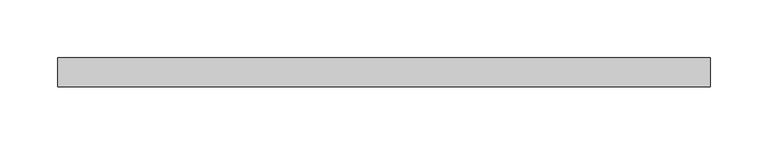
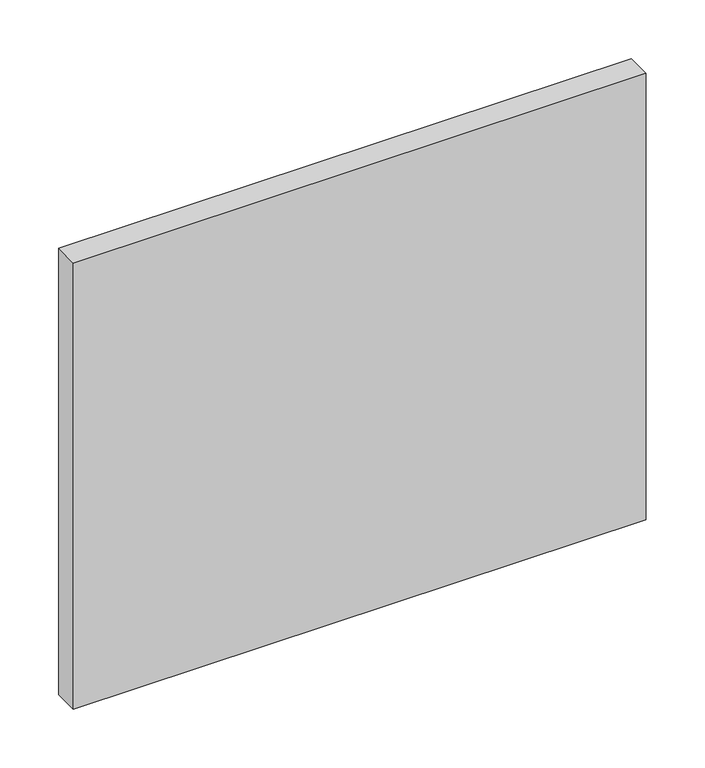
"""IFC4 building model written with IfcOpenShell, lengths in millimetres: plate geometry, Системная панель : С остеклением."""

import ifcopenshell
import ifcopenshell.guid

model = None  # the IFC model being written
_history = None  # IfcOwnerHistory: only IFC2X3 demands one
_inside = {}  # id of a spatial element -> (the spatial element, [elements in it])
_under = {}  # id of a project, library or spatial element -> (it, [spatial elements below it])
_declared = {}  # id of a project -> (the project, [libraries it declares])
_typed = {}  # id of a type object -> (the type object, [elements of that type])
_made_of = {}  # id of a material, layer set ... -> (it, [elements and type objects made of it])


def new_model(schema):
    """Start an empty IFC model of exactly this schema.

    Asked for "IFC4X3", IfcOpenShell would pick the latest addendum, in which some entities
    have other attributes; the version numbers below select the first issue.
    IFC2X3 requires an IfcOwnerHistory on every rooted entity: one is made here for all.
    """
    global model, _history
    if schema == "IFC4X3":
        model = ifcopenshell.file(schema_version=(4, 3, 0, 0))
    else:
        model = ifcopenshell.file(schema=schema)
    _inside.clear()
    _under.clear()
    _declared.clear()
    _typed.clear()
    _made_of.clear()
    _history = None
    if model.schema == "IFC2X3":
        org = make("IfcOrganization", Name="unknown")
        user = make(
            "IfcPersonAndOrganization",
            ThePerson=make("IfcPerson", FamilyName="unknown"),
            TheOrganization=org,
        )
        app = make(
            "IfcApplication",
            ApplicationDeveloper=org,
            Version="unknown",
            ApplicationFullName="unknown",
            ApplicationIdentifier="unknown",
        )
        _history = make(
            "IfcOwnerHistory",
            OwningUser=user,
            OwningApplication=app,
            ChangeAction="ADDED",
            CreationDate=0,
        )
    return model


def make(cls, **values):
    """One entity of the class cls with the attributes given. An attribute that is None is left unset."""
    return model.create_entity(
        cls, **{name: value for name, value in values.items() if value is not None}
    )


def rooted(cls, **values):
    """An entity with a GlobalId (a new one), such as an element, a storey or a relation."""
    return make(cls, GlobalId=ifcopenshell.guid.new(), OwnerHistory=_history, **values)


def si_unit(unit_type, name, prefix=None):
    """IfcSIUnit, for example si_unit("LENGTHUNIT", "METRE", prefix="MILLI")."""
    return make("IfcSIUnit", UnitType=unit_type, Prefix=prefix, Name=name)


def assignment(units):
    """IfcUnitAssignment: the units of a project."""
    return None if units is None else make("IfcUnitAssignment", Units=units)


def point(xyz):
    """IfcCartesianPoint."""
    return None if xyz is None else make("IfcCartesianPoint", Coordinates=xyz)


def direction(xyz):
    """IfcDirection."""
    return None if xyz is None else make("IfcDirection", DirectionRatios=xyz)


def frame(location, z_axis=None, x_axis=None):
    """IfcAxis2Placement3D, a coordinate frame: its origin and axes. An axis left out is left unset."""
    return make(
        "IfcAxis2Placement3D",
        Location=point(location),
        Axis=direction(z_axis),
        RefDirection=direction(x_axis),
    )


def origin():
    """The frame at (0, 0, 0) with its axes left unset."""
    return frame((0.0, 0.0, 0.0))


def origin_with_axes():
    """The frame at (0, 0, 0) with the z axis (0, 0, 1) and the x axis (1, 0, 0) written out."""
    return frame((0.0, 0.0, 0.0), z_axis=(0.0, 0.0, 1.0), x_axis=(1.0, 0.0, 0.0))


def place(relative_to, where):
    """IfcLocalPlacement: puts the frame where relative to a parent placement (None: the world)."""
    return make(
        "IfcLocalPlacement", PlacementRelTo=relative_to, RelativePlacement=where
    )


def context(
    kind, dimensions, precision=None, world=None, true_north=None, identifier=None
):
    """IfcGeometricRepresentationContext, for example the 3D "Model" context."""
    return make(
        "IfcGeometricRepresentationContext",
        ContextIdentifier=identifier,
        ContextType=kind,
        CoordinateSpaceDimension=dimensions,
        Precision=precision,
        WorldCoordinateSystem=world,
        TrueNorth=true_north,
    )


def project(units=None, contexts=None):
    """IfcProject with its units and contexts."""
    return rooted(
        "IfcProject",
        Name="project",
        RepresentationContexts=contexts,
        UnitsInContext=assignment(units),
    )


def spatial(cls, under=None, at=None, **own):
    """A site, building, storey or space (cls), placed at a placement, below another one or the project."""
    s = rooted(cls, ObjectPlacement=at, **own)
    if under is not None:
        _under.setdefault(under.id(), (under, []))[1].append(s)
    return s


def polyline(points):
    """IfcPolyline through the points."""
    return make("IfcPolyline", Points=[point(p) for p in points])


def outline(outer, holes=None, kind="AREA"):
    """IfcArbitraryClosedProfileDef: a profile drawn as a closed curve; with holes, ...WithVoids."""
    if holes is None:
        return make("IfcArbitraryClosedProfileDef", ProfileType=kind, OuterCurve=outer)
    return make(
        "IfcArbitraryProfileDefWithVoids",
        ProfileType=kind,
        OuterCurve=outer,
        InnerCurves=holes,
    )


def extrude(swept, where, along, depth):
    """IfcExtrudedAreaSolid: the profile swept, set in the frame where, extruded along a direction by depth."""
    return make(
        "IfcExtrudedAreaSolid",
        SweptArea=swept,
        Position=where,
        ExtrudedDirection=direction(along),
        Depth=depth,
    )


def shape(context_of_items, identifier, shape_type, items):
    """IfcShapeRepresentation: the items that make up one representation, for example the "Body"."""
    return make(
        "IfcShapeRepresentation",
        ContextOfItems=context_of_items,
        RepresentationIdentifier=identifier,
        RepresentationType=shape_type,
        Items=items,
    )


def source(mapping_origin, context_of_items, identifier, shape_type, items):
    """IfcRepresentationMap: a shape defined once, which mapped items show again and again."""
    return make(
        "IfcRepresentationMap",
        MappingOrigin=mapping_origin,
        MappedRepresentation=shape(context_of_items, identifier, shape_type, items),
    )


def transform(
    local_origin,
    x_axis=None,
    y_axis=None,
    z_axis=None,
    scale=None,
    scale2=None,
    scale3=None,
    uniform=True,
):
    """IfcCartesianTransformationOperator3D, or its non-uniform kind. x_axis, y_axis, z_axis: its Axis1, 2, 3."""
    if uniform:
        return make(
            "IfcCartesianTransformationOperator3D",
            Axis1=direction(x_axis),
            Axis2=direction(y_axis),
            LocalOrigin=point(local_origin),
            Scale=scale,
            Axis3=direction(z_axis),
        )
    return make(
        "IfcCartesianTransformationOperator3DnonUniform",
        Axis1=direction(x_axis),
        Axis2=direction(y_axis),
        LocalOrigin=point(local_origin),
        Scale=scale,
        Axis3=direction(z_axis),
        Scale2=scale2,
        Scale3=scale3,
    )


def mapped(mapping_source, mapping_target):
    """IfcMappedItem: shows the shape of a source again, moved by a transform."""
    return make(
        "IfcMappedItem", MappingSource=mapping_source, MappingTarget=mapping_target
    )


def made_of(thing, what):
    """Note that an element or type object is made of a material, layer set ...; save() writes the relation."""
    if what is not None:
        _made_of.setdefault(what.id(), (what, []))[1].append(thing)
    return thing


def element(
    cls,
    number,
    at=None,
    inside=None,
    cuts=None,
    type_object=None,
    material=None,
    context=None,
    identifier="Body",
    shape_type=None,
    held_by="IfcProductDefinitionShape",
    body=None,
    shapes=None,
    **own,
):
    """One element of the class cls, such as IfcWall. Its Tag is "e" and its number.

    at: its placement. inside: the storey or other place that contains it. cuts: it is an
    opening in that element (IfcRelVoidsElement). A single representation is given by context,
    identifier, shape_type and body (its items); several are given by shapes. held_by: the class
    of the entity that holds the representations. save() writes the other relations.
    """
    e = rooted(cls, Tag="e%d" % number, ObjectPlacement=at, **own)
    if body is not None:
        shapes = [shape(context, identifier, shape_type, body)]
    if shapes is not None:
        e.Representation = make(held_by, Representations=shapes)
    if inside is not None:
        _inside.setdefault(inside.id(), (inside, []))[1].append(e)
    if cuts is not None:
        rooted(
            "IfcRelVoidsElement", RelatingBuildingElement=cuts, RelatedOpeningElement=e
        )
    if type_object is not None:
        _typed.setdefault(type_object.id(), (type_object, []))[1].append(e)
    return made_of(e, material)


def aggregate(whole, parts):
    """IfcRelAggregates: a whole, such as a stair, and the parts it consists of."""
    return rooted("IfcRelAggregates", RelatingObject=whole, RelatedObjects=parts)


def save(model, path):
    """Write the relations noted so far, then the file.

    IfcRelAggregates (storeys below a building ...), IfcRelContainedInSpatialStructure (elements
    in a storey), IfcRelDefinesByType, IfcRelAssociatesMaterial and IfcRelDeclares: one each for
    every whole, place, type object, material and project.
    """
    for whole, parts in _under.values():
        aggregate(whole, parts)
    for where, things in _inside.values():
        rooted(
            "IfcRelContainedInSpatialStructure",
            RelatedElements=things,
            RelatingStructure=where,
        )
    for kind, things in _typed.values():
        rooted("IfcRelDefinesByType", RelatedObjects=things, RelatingType=kind)
    for what, things in _made_of.values():
        rooted("IfcRelAssociatesMaterial", RelatedObjects=things, RelatingMaterial=what)
    for by, libraries in _declared.values():
        rooted("IfcRelDeclares", RelatingContext=by, RelatedDefinitions=libraries)
    model.write(path)


def plate_be455ca1(model_context):
    return source(origin(), model_context, "Body", "SweptSolid", [
        extrude(outline(polyline([(281.3258602, 24.5), (-281.3258602, 24.5), (-281.3258602, 49.5), (281.3258602, 49.5), (281.3258602, 24.5)])), origin_with_axes(), (0.0, 0.0, 1.0), 463.2361077),
    ])


if __name__ == "__main__":
    model = new_model("IFC4")
    model_context = context("Model", 3, world=origin())
    ifc_project = project(units=[si_unit("LENGTHUNIT", "METRE", prefix="MILLI")], contexts=[model_context])
    site = spatial("IfcSite", under=ifc_project)
    building = spatial("IfcBuilding", under=site)
    placement = place(None, origin())
    plate_shape = plate_be455ca1(model_context)
    element("IfcPlate", 1, ObjectType="Системная панель : С остеклением", at=placement, inside=building, context=model_context, shape_type="MappedRepresentation", body=[
        mapped(plate_shape, transform((0.0, 0.0, 0.0), x_axis=(1.0, 0.0, 0.0), y_axis=(0.0, 1.0, 0.0), z_axis=(0.0, 0.0, 1.0))),
    ])
    save(model, "model.ifc")
